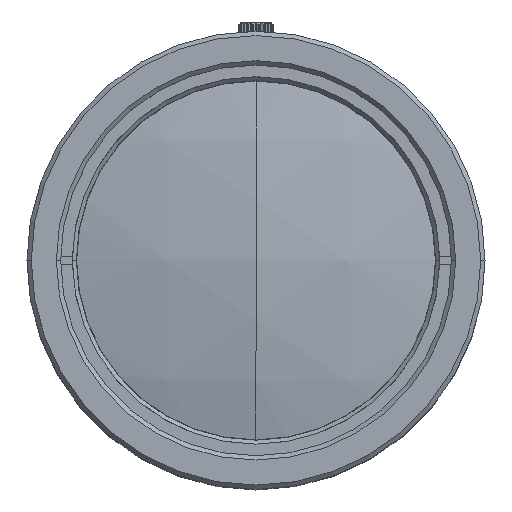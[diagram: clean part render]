
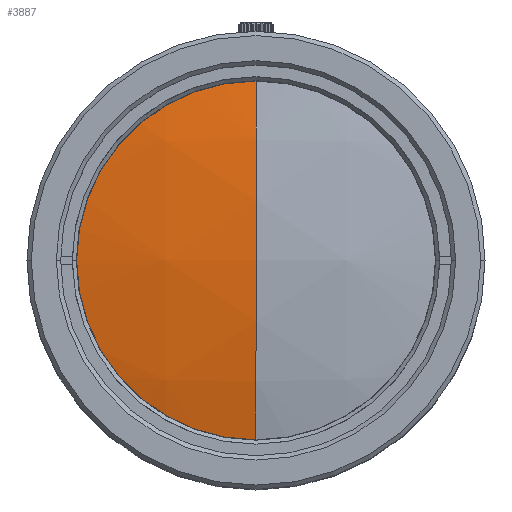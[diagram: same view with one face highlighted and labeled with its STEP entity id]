
A CAD part, top view. The second image highlights one B-rep face of the part: STEP entity #3887.
In plain terms, the highlighted spherical face has radius 92.1 mm.
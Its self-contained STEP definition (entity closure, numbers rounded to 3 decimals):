
#50 = AXIS2_PLACEMENT_3D ( 'NONE', #11222, #22824, #3626 ) ;
#474 = ORIENTED_EDGE ( 'NONE', *, *, #45757, .F. ) ;
#2935 = EDGE_CURVE ( 'NONE', #33038, #26190, #30514, .T. ) ;
#3626 = DIRECTION ( 'NONE',  ( -1., 0., 0. ) ) ;
#3887 = ADVANCED_FACE ( 'NONE', ( #17338 ), #48400, .T. ) ;
#6806 = ORIENTED_EDGE ( 'NONE', *, *, #9658, .T. ) ;
#9491 = AXIS2_PLACEMENT_3D ( 'NONE', #45417, #38325, #45671 ) ;
#9658 = EDGE_CURVE ( 'NONE', #15531, #26190, #40896, .T. ) ;
#11222 = CARTESIAN_POINT ( 'NONE',  ( 0., 0., 82.123 ) ) ;
#12838 = AXIS2_PLACEMENT_3D ( 'NONE', #30506, #26720, #42126 ) ;
#12906 = CARTESIAN_POINT ( 'NONE',  ( 0., -20.789, 82.123 ) ) ;
#13103 = VERTEX_POINT ( 'NONE', #28341 ) ;
#13181 = CARTESIAN_POINT ( 'NONE',  ( 0., 20.789, 82.123 ) ) ;
#13664 = CIRCLE ( 'NONE', #12838, 20.789 ) ;
#14342 = ORIENTED_EDGE ( 'NONE', *, *, #2935, .F. ) ;
#15531 = VERTEX_POINT ( 'NONE', #12906 ) ;
#15706 = ORIENTED_EDGE ( 'NONE', *, *, #17042, .F. ) ;
#17042 = EDGE_CURVE ( 'NONE', #15531, #13103, #13664, .T. ) ;
#17338 = FACE_OUTER_BOUND ( 'NONE', #43633, .T. ) ;
#21831 = CIRCLE ( 'NONE', #50, 20.789 ) ;
#21836 = DIRECTION ( 'NONE',  ( 1., 0., 0. ) ) ;
#22824 = DIRECTION ( 'NONE',  ( 0., 0., -1. ) ) ;
#25154 = DIRECTION ( 'NONE',  ( -1., 0., 0. ) ) ;
#26190 = VERTEX_POINT ( 'NONE', #31237 ) ;
#26720 = DIRECTION ( 'NONE',  ( 0., 0., -1. ) ) ;
#28341 = CARTESIAN_POINT ( 'NONE',  ( -20.789, 0., 82.123 ) ) ;
#30506 = CARTESIAN_POINT ( 'NONE',  ( 0., 0., 82.123 ) ) ;
#30514 = CIRCLE ( 'NONE', #47487, 92.1 ) ;
#31237 = CARTESIAN_POINT ( 'NONE',  ( 0., 0., 84.5 ) ) ;
#33038 = VERTEX_POINT ( 'NONE', #13181 ) ;
#37010 = CARTESIAN_POINT ( 'NONE',  ( 0., 0., -7.6 ) ) ;
#37244 = CARTESIAN_POINT ( 'NONE',  ( 0., 0., -7.6 ) ) ;
#38325 = DIRECTION ( 'NONE',  ( -1., 0., 0. ) ) ;
#40896 = CIRCLE ( 'NONE', #9491, 92.1 ) ;
#41283 = DIRECTION ( 'NONE',  ( 0., 0., -1. ) ) ;
#42126 = DIRECTION ( 'NONE',  ( -1., 0., 0. ) ) ;
#43633 = EDGE_LOOP ( 'NONE', ( #15706, #6806, #14342, #474 ) ) ;
#45417 = CARTESIAN_POINT ( 'NONE',  ( 0., 0., -7.6 ) ) ;
#45671 = DIRECTION ( 'NONE',  ( 0., -1., 0. ) ) ;
#45757 = EDGE_CURVE ( 'NONE', #13103, #33038, #21831, .T. ) ;
#45792 = DIRECTION ( 'NONE',  ( 0., 1., 0. ) ) ;
#47487 = AXIS2_PLACEMENT_3D ( 'NONE', #37244, #21836, #41283 ) ;
#47609 = AXIS2_PLACEMENT_3D ( 'NONE', #37010, #25154, #45792 ) ;
#48400 = SPHERICAL_SURFACE ( 'NONE', #47609, 92.1 ) ;
